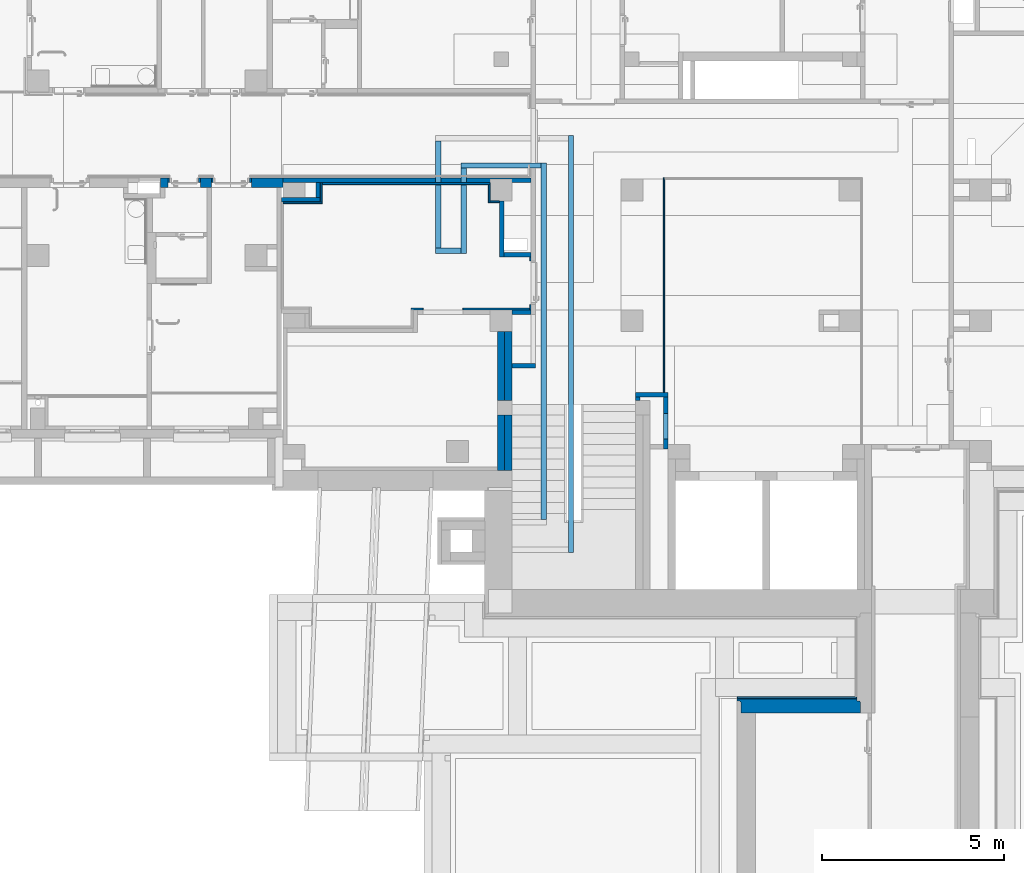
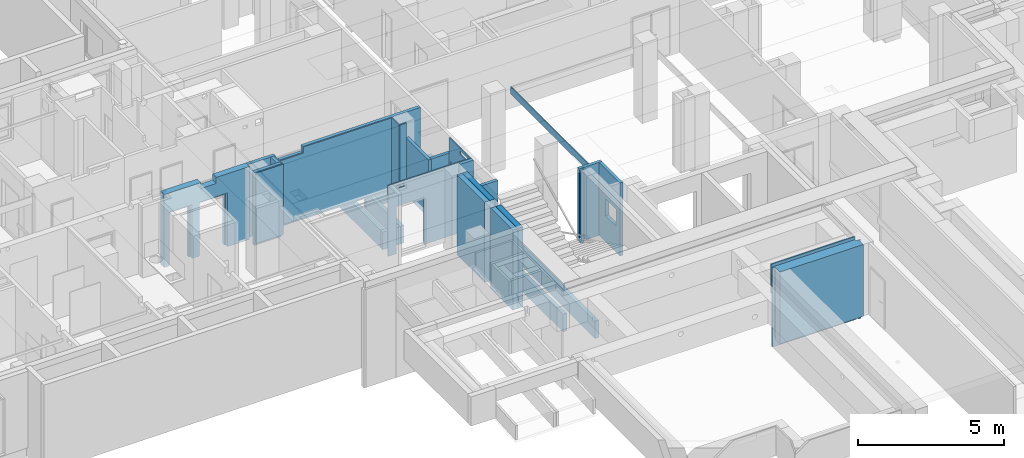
# One storey, part 17 of 84: 33 walls, 13 openings.
"""IFC4 building model written with IfcOpenShell, lengths in metres."""

from ifc_helpers import new_model, entity, si_unit, converted_unit, derived_unit, frame, frame_2d, origin, origin_with_axes, place, context, subcontext, project, spatial, polyline, rectangle, outline, extrude, clip, bounded_halfspace, material, layer, layer_set, layer_usage, element, save


model = new_model("IFC4")

# Units and contexts
model_context = context("Model", 3, precision=1e-05, world=origin())
body_context = subcontext(model_context, "Body", "Model", "MODEL_VIEW")
ifc_project = project(units=[si_unit("LENGTHUNIT", "METRE"), si_unit("AREAUNIT", "SQUARE_METRE"), si_unit("VOLUMEUNIT", "CUBIC_METRE"), si_unit("MASSUNIT", "GRAM", prefix="KILO"), converted_unit("PLANEANGLEUNIT", "DEGREE", entity("IfcPlaneAngleMeasure", 0.0174532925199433), si_unit("PLANEANGLEUNIT", "RADIAN"), dimensions=[0, 0, 0, 0, 0, 0, 0]), derived_unit("THERMALTRANSMITTANCEUNIT", [(si_unit("POWERUNIT", "WATT"), 1), (si_unit("THERMODYNAMICTEMPERATUREUNIT", "KELVIN"), -1), (si_unit("LENGTHUNIT", "METRE"), -2)]), derived_unit("VOLUMETRICFLOWRATEUNIT", [(si_unit("LENGTHUNIT", "METRE"), 3), (converted_unit("TIMEUNIT", "hour", entity("IfcTimeMeasure", 3600.0), si_unit("TIMEUNIT", "SECOND"), dimensions=[0, 0, 1, 0, 0, 0, 0]), -1), (si_unit("LENGTHUNIT", "METRE"), -1)])], contexts=[model_context])

# Site, building, storey
site_placement = place(None, origin())
site = spatial("IfcSite", under=ifc_project, at=site_placement, Name="3. ASŘ", CompositionType="ELEMENT")
building_placement = place(site_placement, origin())
building = spatial("IfcBuilding", under=site, at=building_placement, Name="Pavilon C", CompositionType="ELEMENT")
storey_placement = place(building_placement, frame((0.0, 0.0, -3.3)))
storey = spatial("IfcBuildingStorey", under=building, at=storey_placement, Name="Půdorys 1.PP", CompositionType="ELEMENT", Elevation=-3.3)

# Walls
ifc_material_1 = material(Name="ZELEZOBETONOVÁ KCE")
ifc_layer_1 = layer(ifc_material_1, 0.2)
ifc_layer_set_1 = layer_set([ifc_layer_1])
ifc_layer_usage_1 = layer_usage(ifc_layer_set_1, "AXIS2", "POSITIVE", 0.0)
wall_1_placement = place(storey_placement, frame((31.05, 1.4, -0.4), z_axis=(0.0, 0.0, 1.0), x_axis=(0.0, 1.0, 0.0)))
element("IfcWall", 1, at=wall_1_placement, inside=storey, material=ifc_layer_usage_1, Name="ZELEZOBETONOVÁ KCE", context=body_context, shape_type="SweptSolid", body=[
    extrude(rectangle(XDim=1.9, YDim=0.2, at=frame_2d((0.949999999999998, 0.1), x_axis=(1.0, 0.0))), origin_with_axes(), (0.0, 0.0, 1.0), 3.35),
])
ifc_material_2 = material(Name="ZELEZOBETONOVÁ KCE")
ifc_layer_2 = layer(ifc_material_2, 0.2)
ifc_layer_set_2 = layer_set([ifc_layer_2])
ifc_layer_usage_2 = layer_usage(ifc_layer_set_2, "AXIS2", "POSITIVE", 0.0)
wall_2_placement = place(storey_placement, frame((30.85, 1.4, -0.4), z_axis=(0.0, 0.0, 1.0), x_axis=(0.0, 1.0, 0.0)))
element("IfcWall", 2, at=wall_2_placement, inside=storey, material=ifc_layer_usage_2, Name="ZELEZOBETONOVÁ KCE", context=body_context, shape_type="SweptSolid", body=[
    extrude(rectangle(XDim=1.9, YDim=0.2, at=frame_2d((0.949999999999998, 0.1), x_axis=(1.0, 0.0))), origin_with_axes(), (0.0, 0.0, 1.0), 3.35),
])
ifc_material_3 = material(Name="ZELEZOBETONOVÁ KCE")
ifc_layer_3 = layer(ifc_material_3, 0.2)
ifc_layer_set_3 = layer_set([ifc_layer_3])
ifc_layer_usage_3 = layer_usage(ifc_layer_set_3, "AXIS2", "POSITIVE", 0.0)
wall_3_placement = place(storey_placement, frame((31.05, -0.520000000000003, -0.4), z_axis=(0.0, 0.0, 1.0), x_axis=(0.0, 1.0, 0.0)))
element("IfcWall", 3, at=wall_3_placement, inside=storey, material=ifc_layer_usage_3, Name="ZELEZOBETONOVÁ KCE", context=body_context, shape_type="SweptSolid", body=[
    extrude(rectangle(XDim=1.52, YDim=0.2, at=frame_2d((0.760000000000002, 0.1), x_axis=(1.0, 0.0))), origin_with_axes(), (0.0, 0.0, 1.0), 3.35),
])
ifc_material_4 = material(Name="ZELEZOBETONOVÁ KCE")
ifc_layer_4 = layer(ifc_material_4, 0.2)
ifc_layer_set_4 = layer_set([ifc_layer_4])
ifc_layer_usage_4 = layer_usage(ifc_layer_set_4, "AXIS2", "POSITIVE", 0.0)
wall_4_placement = place(storey_placement, frame((30.85, -0.520000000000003, -0.4), z_axis=(0.0, 0.0, 1.0), x_axis=(0.0, 1.0, 0.0)))
element("IfcWall", 4, at=wall_4_placement, inside=storey, material=ifc_layer_usage_4, Name="ZELEZOBETONOVÁ KCE", context=body_context, shape_type="SweptSolid", body=[
    extrude(rectangle(XDim=1.51990000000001, YDim=0.2, at=frame_2d((0.759950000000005, 0.1), x_axis=(1.0, 0.0))), origin_with_axes(), (0.0, 0.0, 1.0), 3.35),
])
ifc_material_5 = material(Name="ZDIVO Z CDm")
ifc_layer_5 = layer(ifc_material_5, 0.125)
ifc_layer_set_5 = layer_set([ifc_layer_5])
ifc_layer_usage_5 = layer_usage(ifc_layer_set_5, "AXIS2", "POSITIVE", 0.0)
wall_5_placement = place(storey_placement, frame((25.775, 7.0, -0.1), z_axis=(0.0, 0.0, 1.0), x_axis=(-1.0, 0.0, 0.0)))
element("IfcWall", 5, at=wall_5_placement, inside=storey, material=ifc_layer_usage_5, Name="ZDIVO Z CDm", context=body_context, shape_type="SweptSolid", body=[
    extrude(rectangle(XDim=1.075, YDim=0.125, at=frame_2d((0.5375, 0.0625), x_axis=(1.0, 0.0))), origin_with_axes(), (0.0, 0.0, 1.0), 3.05),
])
ifc_material_6 = material(Name="ZDIVO Z CDm")
ifc_layer_6 = layer(ifc_material_6, 0.125)
ifc_layer_set_6 = layer_set([ifc_layer_6])
ifc_layer_usage_6 = layer_usage(ifc_layer_set_6, "AXIS2", "POSITIVE", 0.0)
wall_6_placement = place(storey_placement, frame((25.65, 7.4, -0.1), z_axis=(0.0, 0.0, 1.0), x_axis=(0.0, -1.0, 0.0)))
element("IfcWall", 6, at=wall_6_placement, inside=storey, material=ifc_layer_usage_6, Name="ZDIVO Z CDm", context=body_context, shape_type="SweptSolid", body=[
    extrude(rectangle(XDim=0.400000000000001, YDim=0.125, at=frame_2d((0.2, 0.0625), x_axis=(1.0, 0.0))), origin_with_axes(), (0.0, 0.0, 1.0), 3.05),
])
ifc_material_7 = material(Name="ZDIVO Z CDm")
ifc_layer_7 = layer(ifc_material_7, 0.125)
ifc_layer_set_7 = layer_set([ifc_layer_7])
ifc_layer_usage_7 = layer_usage(ifc_layer_set_7, "AXIS2", "POSITIVE", 0.0)
wall_7_placement = place(storey_placement, frame((31.575, 3.9, -0.1), z_axis=(0.0, 0.0, 1.0), x_axis=(-1.0, 0.0, 0.0)))
element("IfcWall", 7, at=wall_7_placement, inside=storey, material=ifc_layer_usage_7, Name="ZDIVO Z CDm", context=body_context, shape_type="SweptSolid", body=[
    extrude(rectangle(XDim=0.525, YDim=0.125, at=frame_2d((0.2625, 0.0625), x_axis=(1.0, 0.0))), origin_with_axes(), (0.0, 0.0, 1.0), 3.05),
])
ifc_material_8 = material(Name="ZDIVO Z CDm")
ifc_layer_8 = layer(ifc_material_8, 0.125)
ifc_layer_set_8 = layer_set([ifc_layer_8])
ifc_layer_usage_8 = layer_usage(ifc_layer_set_8, "AXIS2", "POSITIVE", 0.0)
wall_8_placement = place(storey_placement, frame((31.7, 2.425, -0.1), z_axis=(0.0, 0.0, 1.0), x_axis=(-1.0, 0.0, 0.0)))
element("IfcWall", 8, at=wall_8_placement, inside=storey, material=ifc_layer_usage_8, Name="ZDIVO Z CDm", context=body_context, shape_type="SweptSolid", body=[
    extrude(rectangle(XDim=0.65, YDim=0.125, at=frame_2d((0.325, 0.0625), x_axis=(1.0, 0.0))), origin_with_axes(), (0.0, 0.0, 1.0), 3.05),
])
ifc_material_9 = material(Name="ZELEZOBETONOVÁ KCE")
ifc_layer_9 = layer(ifc_material_9, 0.15)
ifc_layer_set_9 = layer_set([ifc_layer_9])
ifc_layer_usage_9 = layer_usage(ifc_layer_set_9, "AXIS2", "POSITIVE", 0.0)
wall_9_placement = place(storey_placement, frame((29.65, 7.79999999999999, -0.9), z_axis=(0.0, 0.0, 1.0), x_axis=(0.0, -1.0, 0.0)))
element("IfcWall", 9, at=wall_9_placement, inside=storey, material=ifc_layer_usage_9, Name="ZELEZOBETONOVÁ KCE", context=body_context, shape_type="SweptSolid", body=[
    extrude(rectangle(XDim=2.35, YDim=0.15, at=frame_2d((1.175, 0.075), x_axis=(1.0, 0.0))), origin_with_axes(), (0.0, 0.0, 1.0), 0.73),
])
ifc_material_10 = material(Name="ZELEZOBETONOVÁ KCE")
ifc_layer_10 = layer(ifc_material_10, 0.15)
ifc_layer_set_10 = layer_set([ifc_layer_10])
ifc_layer_usage_10 = layer_usage(ifc_layer_set_10, "AXIS2", "POSITIVE", 0.0)
wall_10_placement = place(storey_placement, frame((29.65, 5.6, -0.9), z_axis=(0.0, 0.0, 1.0), x_axis=(-1.0, 0.0, 0.0)))
element("IfcWall", 10, at=wall_10_placement, inside=storey, material=ifc_layer_usage_10, Name="ZELEZOBETONOVÁ KCE", context=body_context, shape_type="SweptSolid", body=[
    extrude(rectangle(XDim=0.7, YDim=0.15, at=frame_2d((0.35, 0.075), x_axis=(1.0, 0.0))), origin_with_axes(), (0.0, 0.0, 1.0), 0.73),
])
ifc_material_11 = material(Name="ZELEZOBETONOVÁ KCE")
ifc_layer_11 = layer(ifc_material_11, 0.15)
ifc_layer_set_11 = layer_set([ifc_layer_11])
ifc_layer_usage_11 = layer_usage(ifc_layer_set_11, "AXIS2", "POSITIVE", 0.0)
wall_11_placement = place(storey_placement, frame((29.1, 5.6, -0.9), z_axis=(0.0, 0.0, 1.0), x_axis=(0.0, 1.0, 0.0)))
element("IfcWall", 11, at=wall_11_placement, inside=storey, material=ifc_layer_usage_11, Name="ZELEZOBETONOVÁ KCE", context=body_context, shape_type="SweptSolid", body=[
    extrude(rectangle(XDim=2.95, YDim=0.15, at=frame_2d((1.475, 0.075), x_axis=(1.0, 0.0))), origin_with_axes(), (0.0, 0.0, 1.0), 0.73),
])
ifc_material_12 = material(Name="ZELEZOBETONOVÁ KCE")
ifc_layer_12 = layer(ifc_material_12, 0.15)
ifc_layer_set_12 = layer_set([ifc_layer_12])
ifc_layer_usage_12 = layer_usage(ifc_layer_set_12, "AXIS2", "POSITIVE", 0.0)
wall_12_placement = place(storey_placement, frame((31.85, 7.94999999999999, -0.9), z_axis=(0.0, 0.0, 1.0), x_axis=(-1.0, 0.0, 0.0)))
element("IfcWall", 12, at=wall_12_placement, inside=storey, material=ifc_layer_usage_12, Name="ZELEZOBETONOVÁ KCE", context=body_context, shape_type="SweptSolid", body=[
    extrude(rectangle(XDim=2.2, YDim=0.15, at=frame_2d((1.1, 0.075), x_axis=(1.0, 0.0))), origin_with_axes(), (0.0, 0.0, 1.0), 0.73),
])
ifc_material_13 = material(Name="ZELEZOBETONOVÁ KCE")
ifc_layer_13 = layer(ifc_material_13, 0.15)
ifc_layer_set_13 = layer_set([ifc_layer_13])
ifc_layer_usage_13 = layer_usage(ifc_layer_set_13, "AXIS2", "POSITIVE", 0.0)
wall_13_placement = place(storey_placement, frame((32.0, -1.875, -0.9), z_axis=(0.0, 0.0, 1.0), x_axis=(0.0, 1.0, 0.0)))
element("IfcWall", 13, at=wall_13_placement, inside=storey, material=ifc_layer_usage_13, Name="ZELEZOBETONOVÁ KCE", context=body_context, shape_type="SweptSolid", body=[
    extrude(rectangle(XDim=9.825, YDim=0.15, at=frame_2d((4.9125, 0.075), x_axis=(1.0, 0.0))), origin_with_axes(), (0.0, 0.0, 1.0), 0.73),
])
ifc_material_14 = material(Name="ZELEZOBETONOVÁ KCE")
ifc_layer_14 = layer(ifc_material_14, 0.15)
ifc_layer_set_14 = layer_set([ifc_layer_14])
ifc_layer_usage_14 = layer_usage(ifc_layer_set_14, "AXIS2", "POSITIVE", 0.0)
wall_14_placement = place(storey_placement, frame((32.6, 8.69999999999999, -0.9), z_axis=(0.0, 0.0, 1.0), x_axis=(0.0, -1.0, 0.0)))
element("IfcWall", 14, at=wall_14_placement, inside=storey, material=ifc_layer_usage_14, Name="ZELEZOBETONOVÁ KCE", context=body_context, shape_type="SweptSolid", body=[
    extrude(rectangle(XDim=11.475, YDim=0.15, at=frame_2d((5.7375, 0.075), x_axis=(1.0, 0.0))), origin_with_axes(), (0.0, 0.0, 1.0), 0.73),
])
ifc_material_15 = material(Name="ZDIVO Z CDm")
ifc_layer_15 = layer(ifc_material_15, 0.125)
ifc_layer_set_15 = layer_set([ifc_layer_15])
ifc_layer_usage_15 = layer_usage(ifc_layer_set_15, "AXIS2", "POSITIVE", 0.0)
wall_15_placement = place(storey_placement, frame((34.45, 1.5, -0.1), z_axis=(0.0, 0.0, 1.0), x_axis=(0.0, -1.0, 0.0)))
element("IfcWall", 15, at=wall_15_placement, inside=storey, material=ifc_layer_usage_15, Name="ZDIVO Z CDm", context=body_context, shape_type="SweptSolid", body=[
    extrude(rectangle(XDim=0.1, YDim=0.125, at=frame_2d((0.05, 0.0625), x_axis=(1.0, 0.0))), origin_with_axes(), (0.0, 0.0, 1.0), 3.05),
])
ifc_material_16 = material(Name="ZDIVO Z CDm")
ifc_layer_16 = layer(ifc_material_16, 0.125)
ifc_layer_set_16 = layer_set([ifc_layer_16])
ifc_layer_usage_16 = layer_usage(ifc_layer_set_16, "AXIS2", "POSITIVE", 0.0)
wall_16_placement = place(storey_placement, frame((34.45, 1.5, -0.1)))
element("IfcWall", 16, at=wall_16_placement, inside=storey, material=ifc_layer_usage_16, Name="ZDIVO Z CDm", context=body_context, shape_type="SweptSolid", body=[
    extrude(rectangle(XDim=0.9, YDim=0.125, at=frame_2d((0.45, 0.0625), x_axis=(1.0, 0.0))), origin_with_axes(), (0.0, 0.0, 1.0), 3.05),
])
ifc_material_17 = material(Name="SDK SVISLA CAST PODHLEDU")
ifc_layer_17 = layer(ifc_material_17, 0.04)
ifc_layer_set_17 = layer_set([ifc_layer_17])
ifc_layer_usage_17 = layer_usage(ifc_layer_set_17, "AXIS2", "POSITIVE", 0.0)
wall_17_placement = place(storey_placement, frame((35.21, 7.53999999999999, 2.16), z_axis=(0.0, 0.0, 1.0), x_axis=(0.0, -1.0, 0.0)))
element("IfcWall", 17, at=wall_17_placement, inside=storey, material=ifc_layer_usage_17, Name="SDK SVISLA CAST PODHLEDU", context=body_context, shape_type="SweptSolid", body=[
    extrude(rectangle(XDim=5.91499999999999, YDim=0.04, at=frame_2d((2.9575, 0.02), x_axis=(1.0, 0.0))), origin_with_axes(), (0.0, 0.0, 1.0), 0.3),
])

# Wall, opening
ifc_material_18 = material(Name="ZDIVO Z CDm")
ifc_layer_18 = layer(ifc_material_18, 0.125)
ifc_layer_set_18 = layer_set([ifc_layer_18])
ifc_layer_usage_18 = layer_usage(ifc_layer_set_18, "AXIS2", "POSITIVE", 0.0)
wall_18_placement = place(storey_placement, frame((35.35, 0.0749999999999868, -0.1), z_axis=(0.0, 0.0, 1.0), x_axis=(0.0, 1.0, 0.0)))
wall_18 = element("IfcWall", 18, at=wall_18_placement, inside=storey, material=ifc_layer_usage_18, Name="ZDIVO Z CDm", context=body_context, shape_type="SweptSolid", body=[
    extrude(rectangle(XDim=1.42500000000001, YDim=0.125, at=frame_2d((0.712500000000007, 0.0625), x_axis=(1.0, 0.0))), origin_with_axes(), (0.0, 0.0, 1.0), 3.05),
])
opening_1_placement = place(wall_18_placement, frame((0.275, 0.0, 1.1), z_axis=(0.0, 1.0, 0.0), x_axis=(0.0, 0.0, 1.0)))
element("IfcOpeningElement", 19, at=opening_1_placement, cuts=wall_18, Name="Okenní otvor", ObjectType="Opening", context=body_context, shape_type="SweptSolid", body=[
    extrude(outline(polyline([(0.0, 0.7), (0.7, 0.7), (0.7, 0.0), (0.0, 0.0), (0.0, 0.7)])), origin_with_axes(), (0.0, 0.0, 1.0), 0.125),
])

# Wall
ifc_material_19 = material(Name="ZELEZOBETONOVÁ KCE")
wall_19_placement = place(storey_placement, frame((37.35, -7.20000000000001, -0.4), z_axis=(0.0, 0.0, 1.0), x_axis=(1.0, -1.10241782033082e-15, 0.0)))
element("IfcWall", 20, at=wall_19_placement, inside=storey, material=ifc_material_19, Name="ZELEZOBETONOVÁ KCE", context=body_context, shape_type="Clipping", body=[
    clip(clip(clip(extrude(outline(polyline([(3.38, 0.300000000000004), (3.38, 0.325000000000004), (3.3, 0.325000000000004), (3.3, 0.405000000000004), (-4.46479217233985e-16, 0.405000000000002), (-3.58285791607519e-16, 0.325000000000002), (0.0799999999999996, 0.325000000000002), (0.0799999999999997, 0.300000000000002), (0.105, 0.300000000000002), (0.105, 3.75373267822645e-15), (3.405, 3.75373267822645e-15), (3.405, 0.300000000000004), (3.38, 0.300000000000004)])), frame((-0.105, -3.75373267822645e-15, 0.0), z_axis=(0.0, 0.0, 1.0), x_axis=(1.0, 0.0, 0.0)), (0.0, 0.0, 1.0), 3.3), bounded_halfspace(frame((1.61583333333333, 0.3125, 0.4), z_axis=(0.0, 0.0, 1.0), x_axis=(1.0, 1.10241782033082e-15, 0.0)), True, origin_with_axes(), polyline([(-0.0250000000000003, 0.299999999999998), (-3.30725346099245e-16, 0.299999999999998), (3.275, 0.3), (3.275, 0.325), (3.195, 0.325), (-0.0250000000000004, 0.324999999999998), (-0.0250000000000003, 0.299999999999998)]))), bounded_halfspace(frame((1.65, 0.149999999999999, 0.3), z_axis=(0.0, 0.0, 1.0), x_axis=(1.10241782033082e-15, -1.0, 0.0)), True, origin_with_axes(), polyline([(-3.30725346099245e-16, 0.299999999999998), (0.0, 0.0), (3.3, 0.0), (3.3, 0.3), (-3.30725346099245e-16, 0.299999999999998)]))), bounded_halfspace(frame((3.285, 0.365, 0.4), z_axis=(0.0, 0.0, -1.0), x_axis=(1.10241782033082e-15, -1.0, 0.0)), True, origin_with_axes(), polyline([(3.275, 0.405), (3.275, 0.325), (3.295, 0.325), (3.295, 0.405), (3.275, 0.405)]))),
    clip(clip(clip(extrude(rectangle(XDim=0.025, YDim=0.075, at=frame_2d((-0.0375, 0.0125), x_axis=(-1.10241782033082e-15, 1.0))), frame((3.375, 0.3, 0.0), z_axis=(0.0, 0.0, 1.0), x_axis=(1.0, 0.0, 0.0)), (0.0, 0.0, 1.0), 3.3), bounded_halfspace(frame((1.61583333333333, 0.3125, 0.4), z_axis=(0.0, 0.0, 1.0), x_axis=(1.0, 1.10241782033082e-15, 0.0)), True, origin_with_axes(), polyline([(-0.0250000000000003, 0.299999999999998), (-3.30725346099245e-16, 0.299999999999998), (3.275, 0.3), (3.275, 0.325), (3.195, 0.325), (-0.0250000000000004, 0.324999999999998), (-0.0250000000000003, 0.299999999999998)]))), bounded_halfspace(frame((1.65, 0.149999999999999, 0.3), z_axis=(0.0, 0.0, 1.0), x_axis=(1.10241782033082e-15, -1.0, 0.0)), True, origin_with_axes(), polyline([(-3.30725346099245e-16, 0.299999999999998), (0.0, 0.0), (3.3, 0.0), (3.3, 0.3), (-3.30725346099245e-16, 0.299999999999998)]))), bounded_halfspace(frame((3.285, 0.365, 0.4), z_axis=(0.0, 0.0, -1.0), x_axis=(1.10241782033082e-15, -1.0, 0.0)), True, origin_with_axes(), polyline([(3.275, 0.405), (3.275, 0.325), (3.295, 0.325), (3.295, 0.405), (3.275, 0.405)]))),
    clip(clip(clip(extrude(rectangle(XDim=0.08, YDim=0.02, at=frame_2d((-0.01, 0.04), x_axis=(-1.10241782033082e-15, 1.0))), frame((3.295, 0.325, 0.0), z_axis=(0.0, 0.0, 1.0), x_axis=(1.0, 0.0, 0.0)), (0.0, 0.0, 1.0), 3.3), bounded_halfspace(frame((1.61583333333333, 0.3125, 0.4), z_axis=(0.0, 0.0, 1.0), x_axis=(1.0, 1.10241782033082e-15, 0.0)), True, origin_with_axes(), polyline([(-0.0250000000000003, 0.299999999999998), (-3.30725346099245e-16, 0.299999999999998), (3.275, 0.3), (3.275, 0.325), (3.195, 0.325), (-0.0250000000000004, 0.324999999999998), (-0.0250000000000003, 0.299999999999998)]))), bounded_halfspace(frame((1.65, 0.149999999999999, 0.3), z_axis=(0.0, 0.0, 1.0), x_axis=(1.10241782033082e-15, -1.0, 0.0)), True, origin_with_axes(), polyline([(-3.30725346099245e-16, 0.299999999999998), (0.0, 0.0), (3.3, 0.0), (3.3, 0.3), (-3.30725346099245e-16, 0.299999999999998)]))), bounded_halfspace(frame((3.285, 0.365, 0.4), z_axis=(0.0, 0.0, -1.0), x_axis=(1.10241782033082e-15, -1.0, 0.0)), True, origin_with_axes(), polyline([(3.275, 0.405), (3.275, 0.325), (3.295, 0.325), (3.295, 0.405), (3.275, 0.405)]))),
])

# Wall, openings
ifc_material_20 = material(Name="ZDIVO Z CDm")
ifc_layer_19 = layer(ifc_material_20, 0.25)
ifc_layer_set_19 = layer_set([ifc_layer_19])
ifc_layer_usage_19 = layer_usage(ifc_layer_set_19, "AXIS2", "POSITIVE", 0.0)
wall_20_placement = place(storey_placement, frame((24.75, 7.525, -0.1), z_axis=(0.0, 0.0, 1.0), x_axis=(-1.0, 0.0, 0.0)))
wall_20 = element("IfcWall", 21, at=wall_20_placement, inside=storey, material=ifc_layer_usage_19, Name="ZDIVO Z CDm", context=body_context, shape_type="SweptSolid", body=[
    extrude(rectangle(XDim=3.375, YDim=0.25, at=frame_2d((1.6875, 0.125), x_axis=(1.0, 0.0))), origin_with_axes(), (0.0, 0.0, 1.0), 3.05),
])
opening_2_placement = place(wall_20_placement, frame((1.925, 0.25, 2.8), z_axis=(0.0, -1.0, 0.0), x_axis=(0.0, 0.0, 1.0)))
element("IfcOpeningElement", 22, at=opening_2_placement, cuts=wall_20, Name="VZT", ObjectType="Opening", context=body_context, shape_type="SweptSolid", body=[
    extrude(outline(polyline([(0.0, 0.6), (0.25, 0.6), (0.25, 0.0), (0.0, 0.0), (0.0, 0.6)])), origin_with_axes(), (0.0, 0.0, 1.0), 0.25),
])
opening_3_placement = place(wall_20_placement, frame((2.275, 0.0, 0.0), z_axis=(0.0, 1.0, 0.0), x_axis=(0.0, 0.0, 1.0)))
element("IfcOpeningElement", 23, at=opening_3_placement, cuts=wall_20, Name="Dveřní otvor", ObjectType="Opening", context=body_context, shape_type="SweptSolid", body=[
    extrude(outline(polyline([(0.0, 0.9), (2.25, 0.9), (2.25, 0.0), (0.0, 0.0), (0.0, 0.9)])), origin_with_axes(), (0.0, 0.0, 1.0), 0.25),
])
opening_4_placement = place(wall_20_placement, frame((0.875000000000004, 0.0, 0.0), z_axis=(0.0, 1.0, 0.0), x_axis=(0.0, 0.0, 1.0)))
element("IfcOpeningElement", 24, at=opening_4_placement, cuts=wall_20, Name="Dveřní otvor", ObjectType="Opening", context=body_context, shape_type="SweptSolid", body=[
    extrude(outline(polyline([(0.0, 1.1), (2.25, 1.1), (2.25, 0.0), (0.0, 0.0), (0.0, 1.1)])), origin_with_axes(), (0.0, 0.0, 1.0), 0.25),
])

# Walls
ifc_material_21 = material(Name="ZDIVO Z CDm")
ifc_layer_20 = layer(ifc_material_21, 0.125)
ifc_layer_set_20 = layer_set([ifc_layer_20])
ifc_layer_usage_20 = layer_usage(ifc_layer_set_20, "AXIS2", "POSITIVE", 0.0)
wall_21_placement = place(storey_placement, frame((30.825, 5.35, -0.1)))
element("IfcWall", 25, at=wall_21_placement, inside=storey, material=ifc_layer_usage_20, Name="ZDIVO Z CDm", context=body_context, shape_type="SweptSolid", body=[
    extrude(rectangle(XDim=0.75, YDim=0.125, at=frame_2d((0.375, 0.0625), x_axis=(1.0, 0.0))), origin_with_axes(), (0.0, 0.0, 1.0), 2.4),
])
ifc_material_22 = material(Name="ZDIVO Z CDm")
ifc_layer_21 = layer(ifc_material_22, 0.125)
ifc_layer_set_21 = layer_set([ifc_layer_21])
ifc_layer_usage_21 = layer_usage(ifc_layer_set_21, "AXIS2", "POSITIVE", 0.0)
wall_22_placement = place(storey_placement, frame((30.7, 6.9, -0.1), z_axis=(0.0, 0.0, 1.0), x_axis=(0.0, -1.0, 0.0)))
element("IfcWall", 26, at=wall_22_placement, inside=storey, material=ifc_layer_usage_21, Name="ZDIVO Z CDm", context=body_context, shape_type="SweptSolid", body=[
    extrude(rectangle(XDim=1.55, YDim=0.125, at=frame_2d((0.775, 0.0625), x_axis=(1.0, 0.0))), origin_with_axes(), (0.0, 0.0, 1.0), 2.4),
])

# Wall, opening
ifc_material_23 = material(Name="ZDIVO Z CDm")
ifc_layer_22 = layer(ifc_material_23, 0.125)
ifc_layer_set_22 = layer_set([ifc_layer_22])
ifc_layer_usage_22 = layer_usage(ifc_layer_set_22, "AXIS2", "POSITIVE", 0.0)
wall_23_placement = place(storey_placement, frame((31.575, 7.525, -0.1), z_axis=(0.0, 0.0, 1.0), x_axis=(-1.0, 0.0, 0.0)))
wall_23 = element("IfcWall", 27, at=wall_23_placement, inside=storey, material=ifc_layer_usage_22, Name="ZDIVO Z CDm", context=body_context, shape_type="SweptSolid", body=[
    extrude(rectangle(XDim=6.825, YDim=0.125, at=frame_2d((3.4125, 0.0625), x_axis=(1.0, 0.0))), origin_with_axes(), (0.0, 0.0, 1.0), 3.05),
])
opening_5_placement = place(wall_23_placement, frame((4.65320414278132, 0.0, 2.8), z_axis=(0.0, 1.0, 0.0), x_axis=(0.0, 0.0, 1.0)))
element("IfcOpeningElement", 28, at=opening_5_placement, cuts=wall_23, Name="UT+VZT", ObjectType="Opening", context=body_context, shape_type="SweptSolid", body=[
    extrude(outline(polyline([(0.0, 1.08), (0.25, 1.08), (0.25, 0.0), (0.0, 0.0), (0.0, 1.08)])), origin_with_axes(), (0.0, 0.0, 1.0), 0.125),
])

# Walls
ifc_material_24 = material(Name="AKUSTICKÝ OBKLAD")
ifc_layer_23 = layer(ifc_material_24, 0.05)
ifc_layer_set_23 = layer_set([ifc_layer_23])
ifc_layer_usage_23 = layer_usage(ifc_layer_set_23, "AXIS2", "POSITIVE", 0.0)
wall_24_placement = place(storey_placement, frame((25.825, 6.875, 0.0), z_axis=(0.0, 0.0, 1.0), x_axis=(-1.0, 0.0, 0.0)))
element("IfcWall", 29, at=wall_24_placement, inside=storey, material=ifc_layer_usage_23, Name="AKUSTICKÝ OBKLAD", context=body_context, shape_type="SweptSolid", body=[
    extrude(rectangle(XDim=1.075, YDim=0.05, at=frame_2d((0.5375, 0.025), x_axis=(1.0, 0.0))), origin_with_axes(), (0.0, 0.0, 1.0), 2.95),
])
ifc_material_25 = material(Name="AKUSTICKÝ OBKLAD")
ifc_layer_24 = layer(ifc_material_25, 0.05)
ifc_layer_set_24 = layer_set([ifc_layer_24])
ifc_layer_usage_24 = layer_usage(ifc_layer_set_24, "AXIS2", "POSITIVE", 0.0)
wall_25_placement = place(storey_placement, frame((25.775, 7.4, 0.0), z_axis=(0.0, 0.0, 1.0), x_axis=(0.0, -1.0, 0.0)))
element("IfcWall", 30, at=wall_25_placement, inside=storey, material=ifc_layer_usage_24, Name="AKUSTICKÝ OBKLAD", context=body_context, shape_type="SweptSolid", body=[
    extrude(rectangle(XDim=0.525000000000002, YDim=0.05, at=frame_2d((0.262500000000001, 0.025), x_axis=(1.0, 0.0))), origin_with_axes(), (0.0, 0.0, 1.0), 2.95),
])

# Wall, opening
ifc_material_26 = material(Name="AKUSTICKÝ OBKLAD")
ifc_layer_25 = layer(ifc_material_26, 0.05)
ifc_layer_set_25 = layer_set([ifc_layer_25])
ifc_layer_usage_25 = layer_usage(ifc_layer_set_25, "AXIS2", "POSITIVE", 0.0)
wall_26_placement = place(storey_placement, frame((30.45, 7.4, 0.0), z_axis=(0.0, 0.0, 1.0), x_axis=(-1.0, 0.0, 0.0)))
wall_26 = element("IfcWall", 31, at=wall_26_placement, inside=storey, material=ifc_layer_usage_25, Name="AKUSTICKÝ OBKLAD", context=body_context, shape_type="SweptSolid", body=[
    extrude(rectangle(XDim=4.625, YDim=0.05, at=frame_2d((2.3125, 0.025), x_axis=(1.0, 0.0))), origin_with_axes(), (0.0, 0.0, 1.0), 2.95),
])
opening_6_placement = place(wall_26_placement, frame((4.60820414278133, 0.05, 2.7), z_axis=(0.0, -1.0, 0.0), x_axis=(0.0, 0.0, 1.0)))
element("IfcOpeningElement", 32, at=opening_6_placement, cuts=wall_26, Name="UT+VZT", ObjectType="Opening", context=body_context, shape_type="SweptSolid", body=[
    extrude(outline(polyline([(0.0, 1.08), (0.25, 1.08), (0.25, 0.0), (0.0, 0.0), (0.0, 1.08)])), origin_with_axes(), (0.0, 0.0, 1.0), 0.05),
])

# Wall
ifc_material_27 = material(Name="AKUSTICKÝ OBKLAD")
ifc_layer_26 = layer(ifc_material_27, 0.05)
ifc_layer_set_26 = layer_set([ifc_layer_26])
ifc_layer_usage_26 = layer_usage(ifc_layer_set_26, "AXIS2", "POSITIVE", 0.0)
wall_27_placement = place(storey_placement, frame((30.45, 6.85, 0.0), z_axis=(0.0, 0.0, 1.0), x_axis=(0.0, 1.0, 0.0)))
element("IfcWall", 33, at=wall_27_placement, inside=storey, material=ifc_layer_usage_26, Name="AKUSTICKÝ OBKLAD", context=body_context, shape_type="SweptSolid", body=[
    extrude(rectangle(XDim=0.500000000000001, YDim=0.05, at=frame_2d((0.25, 0.025), x_axis=(1.0, 0.0))), origin_with_axes(), (0.0, 0.0, 1.0), 2.95),
])

# Wall, openings
ifc_material_28 = material(Name="AKUSTICKÝ OBKLAD")
ifc_layer_27 = layer(ifc_material_28, 0.05)
ifc_layer_set_27 = layer_set([ifc_layer_27])
ifc_layer_usage_27 = layer_usage(ifc_layer_set_27, "AXIS2", "POSITIVE", 0.0)
wall_28_placement = place(storey_placement, frame((31.575, 3.9, 0.0), z_axis=(0.0, 0.0, 1.0), x_axis=(0.0, 1.0, 0.0)))
wall_28 = element("IfcWall", 34, at=wall_28_placement, inside=storey, material=ifc_layer_usage_27, Name="AKUSTICKÝ OBKLAD", context=body_context, shape_type="SweptSolid", body=[
    extrude(rectangle(XDim=1.45, YDim=0.05, at=frame_2d((0.725, 0.025), x_axis=(1.0, 0.0))), origin_with_axes(), (0.0, 0.0, 1.0), 2.95),
])
opening_7_placement = place(wall_28_placement, frame((1.35, 0.05, 0.0), z_axis=(0.0, -1.0, 0.0), x_axis=(0.0, 0.0, 1.0)))
element("IfcOpeningElement", 35, at=opening_7_placement, cuts=wall_28, Name="Dveřní otvor", ObjectType="Opening", context=body_context, shape_type="SweptSolid", body=[
    extrude(outline(polyline([(0.0, 1.2), (2.02, 1.2), (2.02, 0.0), (0.0, 0.0), (0.0, 1.2)])), origin_with_axes(), (0.0, 0.0, 1.0), 0.05),
])
opening_8_placement = place(wall_28_placement, frame((0.725138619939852, 0.05, 2.7), z_axis=(0.0, -1.0, 0.0), x_axis=(0.0, 0.0, 1.0)))
element("IfcOpeningElement", 36, at=opening_8_placement, cuts=wall_28, Name="Prostup stěnou", ObjectType="Opening", context=body_context, shape_type="SweptSolid", body=[
    extrude(outline(polyline([(0.0, 0.599999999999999), (0.15, 0.599999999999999), (0.15, 0.0), (0.0, 0.0), (0.0, 0.599999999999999)])), origin_with_axes(), (0.0, 0.0, 1.0), 0.05),
])

ifc_material_29 = material(Name="AKUSTICKÝ OBKLAD")
ifc_layer_28 = layer(ifc_material_29, 0.05)
ifc_layer_set_28 = layer_set([ifc_layer_28])
ifc_layer_usage_28 = layer_usage(ifc_layer_set_28, "AXIS2", "POSITIVE", 0.0)
wall_29_placement = place(storey_placement, frame((28.275, 3.9, 0.0), z_axis=(0.0, 0.0, 1.0), x_axis=(1.0, -1.3992226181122e-16, 0.0)))
wall_29 = element("IfcWall", 37, at=wall_29_placement, inside=storey, material=ifc_layer_usage_28, Name="AKUSTICKÝ OBKLAD", context=body_context, shape_type="SweptSolid", body=[
    extrude(rectangle(XDim=3.25, YDim=0.05, at=frame_2d((1.625, 0.025), x_axis=(1.0, 0.0))), origin_with_axes(), (0.0, 0.0, 1.0), 2.95),
])
opening_9_placement = place(wall_29_placement, frame((1.425, 0.0500000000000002, 0.0), z_axis=(0.0, -1.0, 0.0), x_axis=(0.0, 0.0, 1.0)))
element("IfcOpeningElement", 38, at=opening_9_placement, cuts=wall_29, Name="Dveřní otvor", ObjectType="Opening", context=body_context, shape_type="SweptSolid", body=[
    extrude(outline(polyline([(0.0, 1.1), (1.97, 1.1), (1.97, 0.0), (0.0, 0.0), (0.0, 1.1)])), origin_with_axes(), (0.0, 0.0, 1.0), 0.05),
])
opening_10_placement = place(wall_29_placement, frame((0.650762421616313, 0.0500000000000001, 2.7), z_axis=(0.0, -1.0, 0.0), x_axis=(0.0, 0.0, 1.0)))
element("IfcOpeningElement", 39, at=opening_10_placement, cuts=wall_29, Name="UT", ObjectType="Opening", context=body_context, shape_type="SweptSolid", body=[
    extrude(outline(polyline([(0.0, 0.3), (0.15, 0.3), (0.15, 0.0), (0.0, 0.0), (0.0, 0.3)])), origin_with_axes(), (0.0, 0.0, 1.0), 0.05),
])

# Walls
ifc_material_30 = material(Name="AKUSTICKÝ OBKLAD")
ifc_layer_29 = layer(ifc_material_30, 0.05)
ifc_layer_set_29 = layer_set([ifc_layer_29])
ifc_layer_usage_29 = layer_usage(ifc_layer_set_29, "AXIS2", "POSITIVE", 0.0)
wall_30_placement = place(storey_placement, frame((30.7, 6.9, 0.0), z_axis=(0.0, 0.0, 1.0), x_axis=(-1.0, 0.0, 0.0)))
element("IfcWall", 40, at=wall_30_placement, inside=storey, material=ifc_layer_usage_29, Name="AKUSTICKÝ OBKLAD", context=body_context, shape_type="SweptSolid", body=[
    extrude(rectangle(XDim=0.25, YDim=0.05, at=frame_2d((0.125, 0.025), x_axis=(1.0, 0.0))), origin_with_axes(), (0.0, 0.0, 1.0), 2.95),
])
ifc_material_31 = material(Name="PERIMETR")
ifc_layer_30 = layer(ifc_material_31, 0.05)
ifc_layer_set_30 = layer_set([ifc_layer_30])
ifc_layer_usage_30 = layer_usage(ifc_layer_set_30, "AXIS2", "POSITIVE", 0.0)
wall_31_placement = place(storey_placement, frame((40.545, -6.75, 1.8), z_axis=(0.0, 0.0, 1.0), x_axis=(-1.0, 0.0, 0.0)))
element("IfcWall", 41, at=wall_31_placement, inside=storey, material=ifc_layer_usage_30, Name="PERIMETR", context=body_context, shape_type="SweptSolid", body=[
    extrude(rectangle(XDim=3.3, YDim=0.05, at=frame_2d((1.65, 0.025), x_axis=(1.0, 0.0))), origin_with_axes(), (0.0, 0.0, 1.0), 1.22),
])

# Wall, opening
ifc_material_32 = material(Name="YTONG 125")
ifc_layer_31 = layer(ifc_material_32, 0.125)
ifc_layer_set_31 = layer_set([ifc_layer_31])
ifc_layer_usage_31 = layer_usage(ifc_layer_set_31, "AXIS2", "POSITIVE", 0.0)
wall_32_placement = place(storey_placement, frame((23.875, 7.525, -0.1), z_axis=(0.0, 0.0, 1.0), x_axis=(-1.0, 0.0, 0.0)))
wall_32 = element("IfcWall", 42, at=wall_32_placement, inside=storey, material=ifc_layer_usage_31, Name="YTONG 125", context=body_context, shape_type="SweptSolid", body=[
    extrude(rectangle(XDim=1.1, YDim=0.125, at=frame_2d((0.55, 0.0625), x_axis=(1.0, 0.0))), origin_with_axes(), (0.0, 0.0, 1.0), 2.25),
])
opening_11_placement = place(wall_32_placement, frame((0.05, 0.0, 0.0), z_axis=(0.0, 1.0, 0.0), x_axis=(0.0, 0.0, 1.0)))
element("IfcOpeningElement", 43, at=opening_11_placement, cuts=wall_32, Name="Dveřní otvor", ObjectType="Opening", context=body_context, shape_type="SweptSolid", body=[
    extrude(outline(polyline([(0.0, 1.0), (2.12, 1.0), (2.12, 0.0), (0.0, 0.0), (0.0, 1.0)])), origin_with_axes(), (0.0, 0.0, 1.0), 0.125),
])

# Wall, openings
ifc_material_33 = material(Name="YTONG 125")
ifc_layer_32 = layer(ifc_material_33, 0.125)
ifc_layer_set_32 = layer_set([ifc_layer_32])
ifc_layer_usage_32 = layer_usage(ifc_layer_set_32, "AXIS2", "POSITIVE", 0.0)
wall_33_placement = place(storey_placement, frame((22.475, 7.525, -0.1), z_axis=(0.0, 0.0, 1.0), x_axis=(-1.0, 0.0, 0.0)))
wall_33 = element("IfcWall", 44, at=wall_33_placement, inside=storey, material=ifc_layer_usage_32, Name="YTONG 125", context=body_context, shape_type="SweptSolid", body=[
    extrude(rectangle(XDim=0.9, YDim=0.125, at=frame_2d((0.45, 0.0625), x_axis=(1.0, 0.0))), origin_with_axes(), (0.0, 0.0, 1.0), 2.25),
])
opening_12_placement = place(wall_33_placement, frame((0.85, 0.125, 0.0), z_axis=(0.0, -1.0, 0.0), x_axis=(0.0, 0.0, 1.0)))
element("IfcOpeningElement", 45, at=opening_12_placement, cuts=wall_33, Name="Dveřní otvor", ObjectType="Opening", context=body_context, shape_type="SweptSolid", body=[
    extrude(outline(polyline([(0.0, 0.8), (2.12, 0.8), (2.12, 0.0), (0.0, 0.0), (0.0, 0.8)])), origin_with_axes(), (0.0, 0.0, 1.0), 0.125),
])
opening_13_placement = place(wall_33_placement, frame((0.586062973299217, 0.0, 2.8), z_axis=(0.0, 1.0, 0.0), x_axis=(0.0, 0.0, 1.0)))
element("IfcOpeningElement", 46, at=opening_13_placement, cuts=wall_33, Name="VZT", ObjectType="Opening", context=body_context, shape_type="SweptSolid", body=[
    extrude(outline(polyline([(0.124999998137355, 0.25), (0.138066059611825, 0.249315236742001), (0.150988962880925, 0.247268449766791), (0.163627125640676, 0.243882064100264), (0.175842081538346, 0.239193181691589), (0.187500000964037, 0.233253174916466), (0.198473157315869, 0.226127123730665), (0.208641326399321, 0.21789310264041), (0.217893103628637, 0.208641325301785), (0.226127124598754, 0.198473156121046), (0.233253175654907, 0.18749999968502), (0.239193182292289, 0.175842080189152), (0.243882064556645, 0.163627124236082), (0.24726845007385, 0.15098896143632), (0.249315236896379, 0.138066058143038), (0.25, 0.125000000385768), (0.249315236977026, 0.11193394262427), (0.247268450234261, 0.0990110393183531), (0.243882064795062, 0.0863728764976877), (0.2391931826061, 0.0741579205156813), (0.233253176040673, 0.0625000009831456), (0.22612712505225, 0.0515268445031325), (0.217893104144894, 0.0413586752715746), (0.208641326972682, 0.0321068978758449), (0.198473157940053, 0.0238728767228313), (0.187500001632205, 0.0167468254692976), (0.175842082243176, 0.0108068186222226), (0.163627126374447, 0.00611793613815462), (0.150988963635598, 0.00273155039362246), (0.138066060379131, 0.000684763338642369), (0.124999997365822, 0.0), (0.111933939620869, 0.000684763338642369), (0.0990110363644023, 0.00273155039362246), (0.0863728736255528, 0.00611793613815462), (0.074157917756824, 0.0108068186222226), (0.0624999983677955, 0.0167468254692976), (0.0515268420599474, 0.0238728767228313), (0.0413586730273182, 0.0321068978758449), (0.0321068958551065, 0.0413586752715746), (0.0238728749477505, 0.0515268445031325), (0.0167468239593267, 0.0625000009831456), (0.0108068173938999, 0.0741579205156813), (0.00611793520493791, 0.0863728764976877), (0.00273154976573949, 0.0990110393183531), (0.000684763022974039, 0.11193394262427), (0.0, 0.125000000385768), (0.000684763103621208, 0.138066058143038), (0.00273154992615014, 0.15098896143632), (0.00611793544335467, 0.163627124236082), (0.0108068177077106, 0.175842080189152), (0.0167468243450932, 0.18749999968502), (0.0238728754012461, 0.198473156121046), (0.0321068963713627, 0.208641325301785), (0.0413586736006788, 0.21789310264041), (0.0515268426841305, 0.226127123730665), (0.0624999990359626, 0.233253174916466), (0.0741579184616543, 0.239193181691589), (0.086372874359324, 0.243882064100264), (0.0990110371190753, 0.247268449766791), (0.111933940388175, 0.249315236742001), (0.124999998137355, 0.25)])), origin_with_axes(), (0.0, 0.0, 1.0), 0.125),
])

save(model, "model.ifc")
